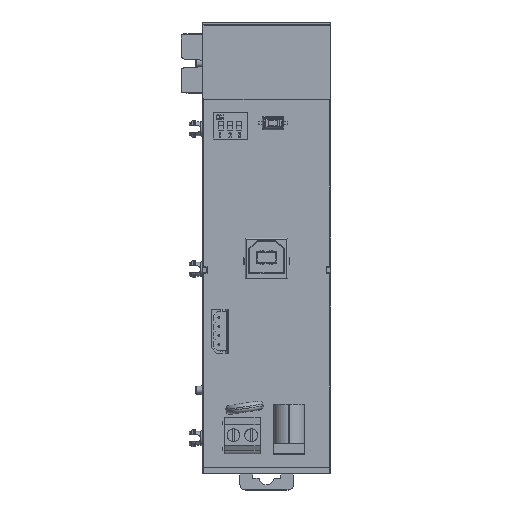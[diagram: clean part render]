
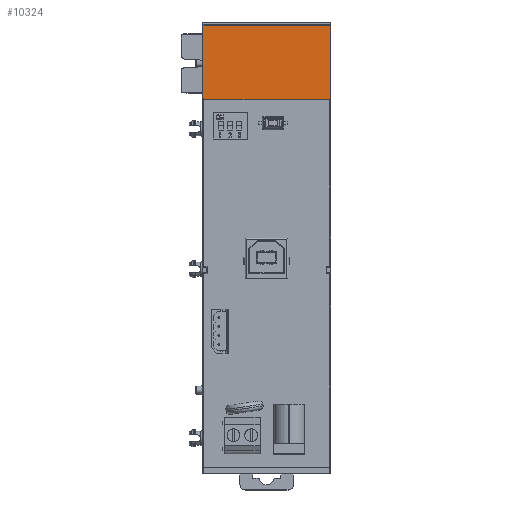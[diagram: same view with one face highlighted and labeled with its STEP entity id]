
A CAD part, top view. The second image highlights one B-rep face of the part: STEP entity #10324.
In plain terms, the highlighted planar face has unit normal (0, 0, 1).
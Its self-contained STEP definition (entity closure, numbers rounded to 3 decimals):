
#358 = VERTEX_POINT ( 'NONE', #5565 ) ;
#581 = VECTOR ( 'NONE', #18543, 1000. ) ;
#1503 = CARTESIAN_POINT ( 'NONE',  ( -17.9, 42.172, 9.4 ) ) ;
#1737 = DIRECTION ( 'NONE',  ( 1., 0., 0. ) ) ;
#4338 = CARTESIAN_POINT ( 'NONE',  ( 17.9, 42.172, 9.4 ) ) ;
#4542 = CARTESIAN_POINT ( 'NONE',  ( 17.7, 41.972, 9.4 ) ) ;
#5565 = CARTESIAN_POINT ( 'NONE',  ( -17.7, 41.972, 9.4 ) ) ;
#7724 = ORIENTED_EDGE ( 'NONE', *, *, #29782, .T. ) ;
#8069 = EDGE_CURVE ( 'NONE', #12144, #358, #23237, .T. ) ;
#8279 = VERTEX_POINT ( 'NONE', #35719 ) ;
#8721 = ORIENTED_EDGE ( 'NONE', *, *, #35156, .T. ) ;
#9707 = VERTEX_POINT ( 'NONE', #39534 ) ;
#9936 = EDGE_CURVE ( 'NONE', #8279, #19634, #37380, .T. ) ;
#10324 = ADVANCED_FACE ( 'NONE', ( #27581 ), #34468, .T. ) ;
#12144 = VERTEX_POINT ( 'NONE', #21056 ) ;
#12934 = LINE ( 'NONE', #40087, #35264 ) ;
#13080 = EDGE_CURVE ( 'NONE', #358, #34256, #41357, .T. ) ;
#13795 = DIRECTION ( 'NONE',  ( 0., 1., 0. ) ) ;
#14619 = CARTESIAN_POINT ( 'NONE',  ( -17.9, 42.055, 9.4 ) ) ;
#14641 = DIRECTION ( 'NONE',  ( 1., 0., 0. ) ) ;
#14848 = CARTESIAN_POINT ( 'NONE',  ( 17.9, 41.972, 9.4 ) ) ;
#15227 = CARTESIAN_POINT ( 'NONE',  ( 17.9, 42.055, 9.4 ) ) ;
#15646 = ORIENTED_EDGE ( 'NONE', *, *, #13080, .T. ) ;
#17663 = CARTESIAN_POINT ( 'NONE',  ( 17.817, 41.972, 9.4 ) ) ;
#18474 = AXIS2_PLACEMENT_3D ( 'NONE', #40924, #40711, #1737 ) ;
#18496 = CARTESIAN_POINT ( 'NONE',  ( -17.817, 41.972, 9.4 ) ) ;
#18543 = DIRECTION ( 'NONE',  ( 0., -1., 0. ) ) ;
#18575 = VECTOR ( 'NONE', #14641, 1000. ) ;
#19634 = VERTEX_POINT ( 'NONE', #36911 ) ;
#21009 = CARTESIAN_POINT ( 'NONE',  ( 0., 62.772, 9.4 ) ) ;
#21056 = CARTESIAN_POINT ( 'NONE',  ( -17.9, 42.172, 9.4 ) ) ;
#23237 =( BOUNDED_CURVE ( )  B_SPLINE_CURVE ( 3, ( #1503, #14619, #18496, #25596 ),
 .UNSPECIFIED., .F., .F. ) 
 B_SPLINE_CURVE_WITH_KNOTS ( ( 4, 4 ),
 ( 5.498, 7.069 ),
 .UNSPECIFIED. ) 
 CURVE ( )  GEOMETRIC_REPRESENTATION_ITEM ( )  RATIONAL_B_SPLINE_CURVE ( ( 1., 0.805, 0.805, 1. ) ) 
 REPRESENTATION_ITEM ( '' )  );
#25596 = CARTESIAN_POINT ( 'NONE',  ( -17.7, 41.972, 9.4 ) ) ;
#26888 =( BOUNDED_CURVE ( )  B_SPLINE_CURVE ( 3, ( #4542, #17663, #15227, #4338 ),
 .UNSPECIFIED., .F., .F. ) 
 B_SPLINE_CURVE_WITH_KNOTS ( ( 4, 4 ),
 ( 5.498, 7.069 ),
 .UNSPECIFIED. ) 
 CURVE ( )  GEOMETRIC_REPRESENTATION_ITEM ( )  RATIONAL_B_SPLINE_CURVE ( ( 1., 0.805, 0.805, 1. ) ) 
 REPRESENTATION_ITEM ( '' )  );
#27581 = FACE_OUTER_BOUND ( 'NONE', #38817, .T. ) ;
#27974 = ORIENTED_EDGE ( 'NONE', *, *, #8069, .T. ) ;
#29782 = EDGE_CURVE ( 'NONE', #9707, #19634, #12934, .T. ) ;
#29795 = ORIENTED_EDGE ( 'NONE', *, *, #9936, .F. ) ;
#31691 = LINE ( 'NONE', #41591, #581 ) ;
#32886 = ORIENTED_EDGE ( 'NONE', *, *, #37623, .T. ) ;
#33932 = DIRECTION ( 'NONE',  ( 1., 0., 0. ) ) ;
#34256 = VERTEX_POINT ( 'NONE', #36739 ) ;
#34468 = PLANE ( 'NONE',  #18474 ) ;
#35156 = EDGE_CURVE ( 'NONE', #34256, #9707, #26888, .T. ) ;
#35264 = VECTOR ( 'NONE', #13795, 1000. ) ;
#35719 = CARTESIAN_POINT ( 'NONE',  ( -17.9, 62.772, 9.4 ) ) ;
#36739 = CARTESIAN_POINT ( 'NONE',  ( 17.7, 41.972, 9.4 ) ) ;
#36911 = CARTESIAN_POINT ( 'NONE',  ( 17.9, 62.772, 9.4 ) ) ;
#37380 = LINE ( 'NONE', #21009, #37688 ) ;
#37623 = EDGE_CURVE ( 'NONE', #8279, #12144, #31691, .T. ) ;
#37688 = VECTOR ( 'NONE', #33932, 1000. ) ;
#38817 = EDGE_LOOP ( 'NONE', ( #15646, #8721, #7724, #29795, #32886, #27974 ) ) ;
#39534 = CARTESIAN_POINT ( 'NONE',  ( 17.9, 42.172, 9.4 ) ) ;
#40087 = CARTESIAN_POINT ( 'NONE',  ( 17.9, 41.972, 9.4 ) ) ;
#40711 = DIRECTION ( 'NONE',  ( 0., 0., 1. ) ) ;
#40924 = CARTESIAN_POINT ( 'NONE',  ( 0., 52.822, 9.4 ) ) ;
#41357 = LINE ( 'NONE', #14848, #18575 ) ;
#41591 = CARTESIAN_POINT ( 'NONE',  ( -17.9, 41.972, 9.4 ) ) ;
